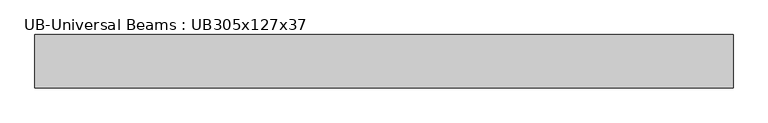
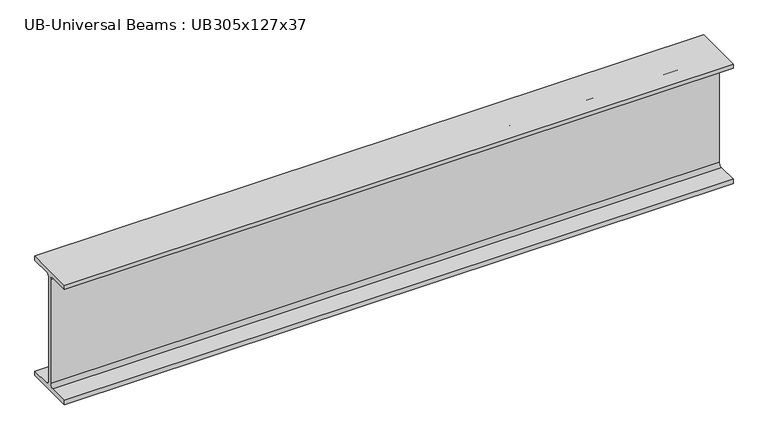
"""IFC4 building model written with IfcOpenShell, lengths in millimetres: beam geometry, UB-Universal Beams : UB305x127x37."""

from ifc_helpers import new_model, si_unit, point, frame, frame_2d, origin, place, context, project, spatial, polyline, circle_curve, trimmed, segment, composite_curve, outline, extrude, source, transform, mapped, element, save


def ub_universal_beams_ub305x127x37_5bb895c1(model_context):
    return source(origin(), model_context, "Body", "SweptSolid", [
        extrude(outline(composite_curve([segment(polyline([(61.7, -141.5), (61.7, -152.2), (-61.7, -152.2), (-61.7, -141.5), (-12.45, -141.5)]), True, "CONTINUOUS"), segment(trimmed(circle_curve(frame_2d((-12.45, -132.6)), 8.9), [point((-12.45, -141.5))], [point((-3.55, -132.6))], True, "CARTESIAN"), True, "CONTINUOUS"), segment(polyline([(-3.55, -132.6), (-3.55, 132.6)]), True, "CONTINUOUS"), segment(trimmed(circle_curve(frame_2d((-12.45, 132.6)), 8.9), [point((-3.55, 132.6))], [point((-12.45, 141.5))], True, "CARTESIAN"), True, "CONTINUOUS"), segment(polyline([(-12.45, 141.5), (-61.7, 141.5), (-61.7, 152.2), (61.7, 152.2), (61.7, 141.5), (12.45, 141.5)]), True, "CONTINUOUS"), segment(trimmed(circle_curve(frame_2d((12.45, 132.6)), 8.9), [point((12.45, 141.5))], [point((3.55, 132.6))], True, "CARTESIAN"), True, "CONTINUOUS"), segment(polyline([(3.55, 132.6), (3.55, -132.6)]), True, "CONTINUOUS"), segment(trimmed(circle_curve(frame_2d((12.45, -132.6)), 8.9), [point((3.55, -132.6))], [point((12.45, -141.5))], True, "CARTESIAN"), True, "CONTINUOUS"), segment(polyline([(12.45, -141.5), (61.7, -141.5)]), True, "CONTINUOUS")], self_intersect=False)), frame((-804.4, 0.0, 0.0), z_axis=(1.0, 0.0, 0.0), x_axis=(0.0, 1.0, 0.0)), (0.0, 0.0, 1.0), 1612.0),
    ])


if __name__ == "__main__":
    model = new_model("IFC4")
    model_context = context("Model", 3, world=origin())
    ifc_project = project(units=[si_unit("LENGTHUNIT", "METRE", prefix="MILLI")], contexts=[model_context])
    site = spatial("IfcSite", under=ifc_project)
    building = spatial("IfcBuilding", under=site)
    placement = place(None, origin())
    ub_universal_beams_ub305x127x37_shape = ub_universal_beams_ub305x127x37_5bb895c1(model_context)
    element("IfcBeam", 1, ObjectType="UB-Universal Beams : UB305x127x37", at=placement, inside=building, context=model_context, shape_type="MappedRepresentation", body=[
        mapped(ub_universal_beams_ub305x127x37_shape, transform((0.0, 0.0, 0.0), x_axis=(1.0, 0.0, 0.0), y_axis=(0.0, 1.0, 0.0), z_axis=(0.0, 0.0, 1.0))),
    ])
    save(model, "model.ifc")
